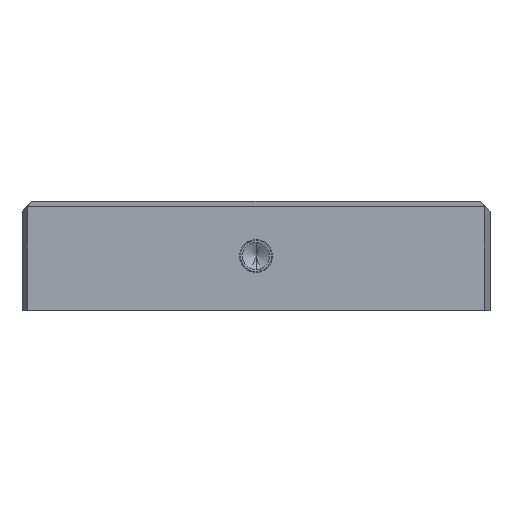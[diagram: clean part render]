
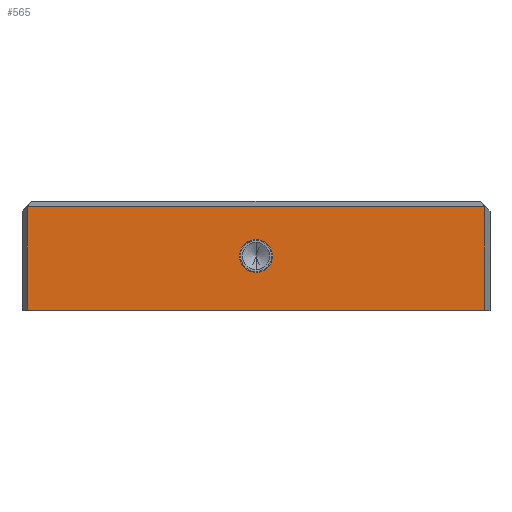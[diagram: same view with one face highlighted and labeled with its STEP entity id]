
A CAD part, front view. The second image highlights one B-rep face of the part: STEP entity #565.
In plain terms, the highlighted planar face has unit normal (0, -1, 0).
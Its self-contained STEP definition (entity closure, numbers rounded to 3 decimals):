
#457=CARTESIAN_POINT('Vertex',(0.,0.,-36.5)) ;
#461=CARTESIAN_POINT('Control Point',(8.5,0.,-28.)) ;
#462=CARTESIAN_POINT('Control Point',(8.5,0.,-30.67)) ;
#463=CARTESIAN_POINT('Control Point',(7.454,0.,-33.343)) ;
#464=CARTESIAN_POINT('Control Point',(5.343,0.,-35.454)) ;
#465=CARTESIAN_POINT('Control Point',(2.67,0.,-36.5)) ;
#466=CARTESIAN_POINT('Control Point',(0.,0.,-36.5)) ;
#467=CARTESIAN_POINT('Vertex',(8.5,0.,-28.)) ;
#470=CARTESIAN_POINT('Axis2P3D Location',(0.,0.,-28.)) ;
#474=CARTESIAN_POINT('Vertex',(0.,0.,-19.5)) ;
#496=CARTESIAN_POINT('Axis2P3D Location',(0.,0.,-28.)) ;
#500=CARTESIAN_POINT('Vertex',(-8.5,0.,-28.)) ;
#504=CARTESIAN_POINT('Control Point',(0.,0.,-36.5)) ;
#505=CARTESIAN_POINT('Control Point',(-2.67,0.,-36.5)) ;
#506=CARTESIAN_POINT('Control Point',(-5.343,0.,-35.454)) ;
#507=CARTESIAN_POINT('Control Point',(-7.454,0.,-33.343)) ;
#508=CARTESIAN_POINT('Control Point',(-8.5,0.,-30.67)) ;
#509=CARTESIAN_POINT('Control Point',(-8.5,0.,-28.)) ;
#520=CARTESIAN_POINT('Axis2P3D Location',(-117.321,0.,-56.)) ;
#525=CARTESIAN_POINT('Line Origine',(117.321,0.,-29.34)) ;
#529=CARTESIAN_POINT('Vertex',(117.321,0.,-56.)) ;
#531=CARTESIAN_POINT('Vertex',(117.321,0.,-2.679)) ;
#534=CARTESIAN_POINT('Line Origine',(0.,0.,-2.679)) ;
#538=CARTESIAN_POINT('Vertex',(-117.321,0.,-2.679)) ;
#541=CARTESIAN_POINT('Line Origine',(-117.321,0.,-29.34)) ;
#545=CARTESIAN_POINT('Vertex',(-117.321,0.,-56.)) ;
#548=CARTESIAN_POINT('Line Origine',(0.,0.,-56.)) ;
#471=DIRECTION('Axis2P3D Direction',(0.,-1.,0.)) ;
#497=DIRECTION('Axis2P3D Direction',(0.,-1.,0.)) ;
#521=DIRECTION('Axis2P3D Direction',(0.,-1.,0.)) ;
#522=DIRECTION('Axis2P3D XDirection',(0.,0.,-1.)) ;
#526=DIRECTION('Vector Direction',(0.,0.,1.)) ;
#535=DIRECTION('Vector Direction',(-1.,0.,0.)) ;
#542=DIRECTION('Vector Direction',(0.,0.,1.)) ;
#549=DIRECTION('Vector Direction',(1.,0.,0.)) ;
#472=AXIS2_PLACEMENT_3D('Circle Axis2P3D',#470,#471,$) ;
#498=AXIS2_PLACEMENT_3D('Circle Axis2P3D',#496,#497,$) ;
#523=AXIS2_PLACEMENT_3D('Plane Axis2P3D',#520,#521,#522) ;
#554=ORIENTED_EDGE('',*,*,#533,.T.) ;
#555=ORIENTED_EDGE('',*,*,#540,.T.) ;
#556=ORIENTED_EDGE('',*,*,#547,.F.) ;
#557=ORIENTED_EDGE('',*,*,#552,.T.) ;
#560=ORIENTED_EDGE('',*,*,#469,.T.) ;
#561=ORIENTED_EDGE('',*,*,#510,.T.) ;
#562=ORIENTED_EDGE('',*,*,#502,.T.) ;
#563=ORIENTED_EDGE('',*,*,#476,.T.) ;
#564=FACE_BOUND('',#559,.T.) ;
#527=VECTOR('Line Direction',#526,1.) ;
#536=VECTOR('Line Direction',#535,1.) ;
#543=VECTOR('Line Direction',#542,1.) ;
#550=VECTOR('Line Direction',#549,1.) ;
#565=ADVANCED_FACE('A927-240X500X56',(#558,#564),#524,.T.) ;
#460=B_SPLINE_CURVE_WITH_KNOTS('',5,(#461,#462,#463,#464,#465,#466),.UNSPECIFIED.,.F.,.U.,(6,6),(-6.676,6.676),.UNSPECIFIED.) ;
#503=B_SPLINE_CURVE_WITH_KNOTS('',5,(#504,#505,#506,#507,#508,#509),.UNSPECIFIED.,.F.,.U.,(6,6),(-6.676,6.676),.UNSPECIFIED.) ;
#473=CIRCLE('generated circle',#472,8.5) ;
#499=CIRCLE('generated circle',#498,8.5) ;
#469=EDGE_CURVE('',#468,#458,#460,.T.) ;
#476=EDGE_CURVE('',#475,#468,#473,.F.) ;
#502=EDGE_CURVE('',#501,#475,#499,.F.) ;
#510=EDGE_CURVE('',#458,#501,#503,.T.) ;
#533=EDGE_CURVE('',#530,#532,#528,.T.) ;
#540=EDGE_CURVE('',#532,#539,#537,.T.) ;
#547=EDGE_CURVE('',#546,#539,#544,.T.) ;
#552=EDGE_CURVE('',#546,#530,#551,.T.) ;
#553=EDGE_LOOP('',(#554,#555,#556,#557)) ;
#559=EDGE_LOOP('',(#560,#561,#562,#563)) ;
#558=FACE_OUTER_BOUND('',#553,.T.) ;
#528=LINE('Line',#525,#527) ;
#537=LINE('Line',#534,#536) ;
#544=LINE('Line',#541,#543) ;
#551=LINE('Line',#548,#550) ;
#524=PLANE('Plane',#523) ;
#458=VERTEX_POINT('',#457) ;
#468=VERTEX_POINT('',#467) ;
#475=VERTEX_POINT('',#474) ;
#501=VERTEX_POINT('',#500) ;
#530=VERTEX_POINT('',#529) ;
#532=VERTEX_POINT('',#531) ;
#539=VERTEX_POINT('',#538) ;
#546=VERTEX_POINT('',#545) ;
